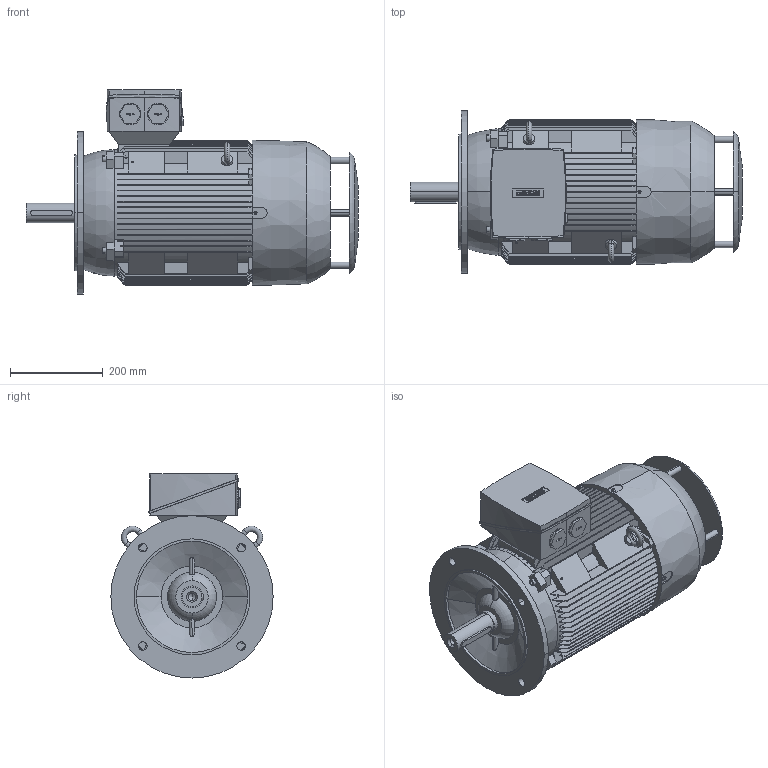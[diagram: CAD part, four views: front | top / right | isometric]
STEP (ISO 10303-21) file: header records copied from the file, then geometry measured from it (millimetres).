
FILE_DESCRIPTION(('STEP AP214'),'1');
FILE_NAME('cctmp_A2EC68D3-866C-42E4-9EF2-E2FD8B645035_2026_04_15_14_04_09_0232_51028..stp','2026-04-15T12:04:09',('KiM GmbH'),('CADClick - www.CADClick.com'),'Spatial InterOp 3D',' ','unknown authorization');
FILE_SCHEMA(('AUTOMOTIVE_DESIGN'));
Length unit declared in the file: millimetre
Products named in the file (1): 2026_04_15_14_04_09_0232
Bounding box: 716 x 350 x 440 mm (x, y, z)
Volume: 39040010.3 mm3; surface area: 1740480.1 mm2
Topology: 7 solids, 7 shells, 1065 faces, 2909 edges, 1918 vertices
Faces by surface type: plane 629, cylinder 264, torus 148, cone 24
Entity records: 50547 total; most frequent: CARTESIAN_POINT 15502, ORIENTED_EDGE 5818, DIRECTION 5102, EDGE_CURVE 2907, VERTEX_POINT 1918, AXIS2_PLACEMENT_3D 1705, LINE 1692, VECTOR 1692
